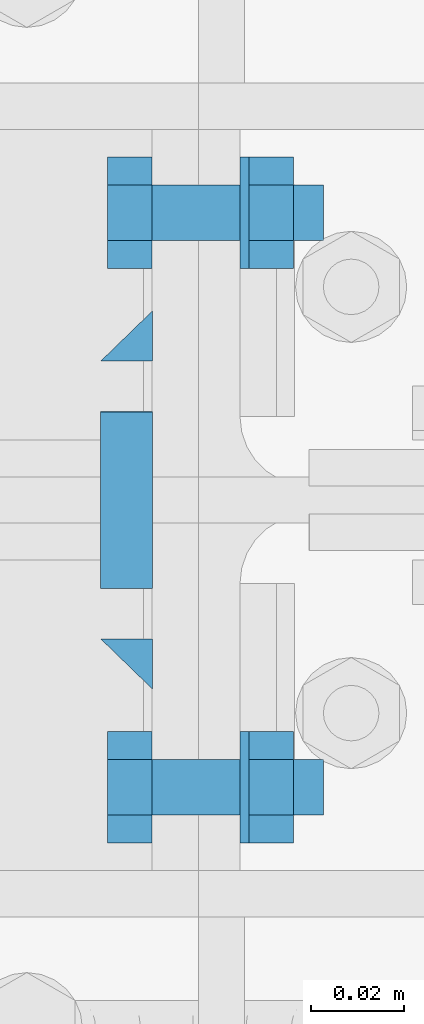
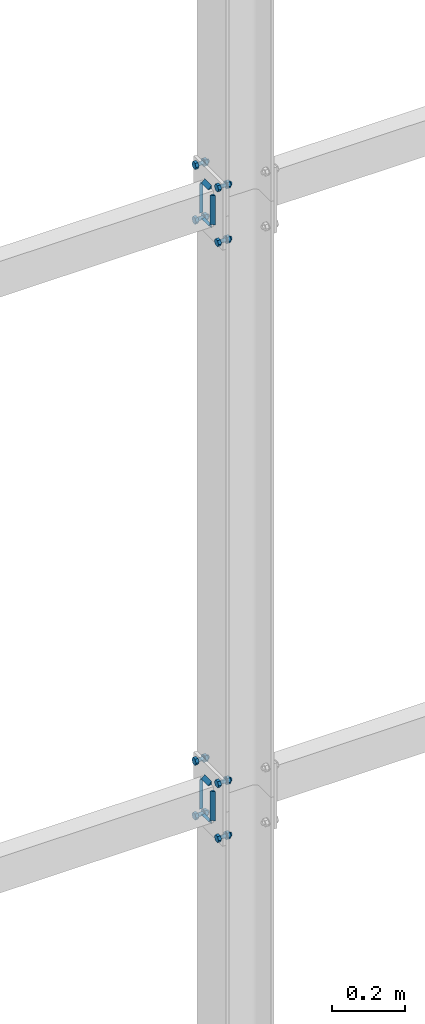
# One storey, part 197 of 251: 32 mechanical fasteners, 16 fasteners.
"""IFC4 building model written with IfcOpenShell, lengths in metres."""

import ifcopenshell
import ifcopenshell.guid

model = None  # the IFC model being written
_history = None  # IfcOwnerHistory: only IFC2X3 demands one
_inside = {}  # id of a spatial element -> (the spatial element, [elements in it])
_under = {}  # id of a project, library or spatial element -> (it, [spatial elements below it])
_declared = {}  # id of a project -> (the project, [libraries it declares])
_typed = {}  # id of a type object -> (the type object, [elements of that type])
_made_of = {}  # id of a material, layer set ... -> (it, [elements and type objects made of it])


def new_model(schema):
    """Start an empty IFC model of exactly this schema.

    Asked for "IFC4X3", IfcOpenShell would pick the latest addendum, in which some entities
    have other attributes; the version numbers below select the first issue.
    IFC2X3 requires an IfcOwnerHistory on every rooted entity: one is made here for all.
    """
    global model, _history
    if schema == "IFC4X3":
        model = ifcopenshell.file(schema_version=(4, 3, 0, 0))
    else:
        model = ifcopenshell.file(schema=schema)
    _inside.clear()
    _under.clear()
    _declared.clear()
    _typed.clear()
    _made_of.clear()
    _history = None
    if model.schema == "IFC2X3":
        org = make("IfcOrganization", Name="unknown")
        user = make(
            "IfcPersonAndOrganization",
            ThePerson=make("IfcPerson", FamilyName="unknown"),
            TheOrganization=org,
        )
        app = make(
            "IfcApplication",
            ApplicationDeveloper=org,
            Version="unknown",
            ApplicationFullName="unknown",
            ApplicationIdentifier="unknown",
        )
        _history = make(
            "IfcOwnerHistory",
            OwningUser=user,
            OwningApplication=app,
            ChangeAction="ADDED",
            CreationDate=0,
        )
    return model


def make(cls, **values):
    """One entity of the class cls with the attributes given. An attribute that is None is left unset."""
    return model.create_entity(
        cls, **{name: value for name, value in values.items() if value is not None}
    )


def rooted(cls, **values):
    """An entity with a GlobalId (a new one), such as an element, a storey or a relation."""
    return make(cls, GlobalId=ifcopenshell.guid.new(), OwnerHistory=_history, **values)


def si_unit(unit_type, name, prefix=None):
    """IfcSIUnit, for example si_unit("LENGTHUNIT", "METRE", prefix="MILLI")."""
    return make("IfcSIUnit", UnitType=unit_type, Prefix=prefix, Name=name)


def assignment(units):
    """IfcUnitAssignment: the units of a project."""
    return None if units is None else make("IfcUnitAssignment", Units=units)


def point(xyz):
    """IfcCartesianPoint."""
    return None if xyz is None else make("IfcCartesianPoint", Coordinates=xyz)


def direction(xyz):
    """IfcDirection."""
    return None if xyz is None else make("IfcDirection", DirectionRatios=xyz)


def frame(location, z_axis=None, x_axis=None):
    """IfcAxis2Placement3D, a coordinate frame: its origin and axes. An axis left out is left unset."""
    return make(
        "IfcAxis2Placement3D",
        Location=point(location),
        Axis=direction(z_axis),
        RefDirection=direction(x_axis),
    )


def origin_with_axes():
    """The frame at (0, 0, 0) with the z axis (0, 0, 1) and the x axis (1, 0, 0) written out."""
    return frame((0.0, 0.0, 0.0), z_axis=(0.0, 0.0, 1.0), x_axis=(1.0, 0.0, 0.0))


def place(relative_to, where):
    """IfcLocalPlacement: puts the frame where relative to a parent placement (None: the world)."""
    return make(
        "IfcLocalPlacement", PlacementRelTo=relative_to, RelativePlacement=where
    )


def context(
    kind, dimensions, precision=None, world=None, true_north=None, identifier=None
):
    """IfcGeometricRepresentationContext, for example the 3D "Model" context."""
    return make(
        "IfcGeometricRepresentationContext",
        ContextIdentifier=identifier,
        ContextType=kind,
        CoordinateSpaceDimension=dimensions,
        Precision=precision,
        WorldCoordinateSystem=world,
        TrueNorth=true_north,
    )


def project(units=None, contexts=None):
    """IfcProject with its units and contexts."""
    return rooted(
        "IfcProject",
        Name="project",
        RepresentationContexts=contexts,
        UnitsInContext=assignment(units),
    )


def spatial(cls, under=None, at=None, **own):
    """A site, building, storey or space (cls), placed at a placement, below another one or the project."""
    s = rooted(cls, ObjectPlacement=at, **own)
    if under is not None:
        _under.setdefault(under.id(), (under, []))[1].append(s)
    return s


def polyline(points):
    """IfcPolyline through the points."""
    return make("IfcPolyline", Points=[point(p) for p in points])


def outline(outer, holes=None, kind="AREA"):
    """IfcArbitraryClosedProfileDef: a profile drawn as a closed curve; with holes, ...WithVoids."""
    if holes is None:
        return make("IfcArbitraryClosedProfileDef", ProfileType=kind, OuterCurve=outer)
    return make(
        "IfcArbitraryProfileDefWithVoids",
        ProfileType=kind,
        OuterCurve=outer,
        InnerCurves=holes,
    )


def extrude(swept, where, along, depth):
    """IfcExtrudedAreaSolid: the profile swept, set in the frame where, extruded along a direction by depth."""
    return make(
        "IfcExtrudedAreaSolid",
        SweptArea=swept,
        Position=where,
        ExtrudedDirection=direction(along),
        Depth=depth,
    )


def shape(context_of_items, identifier, shape_type, items):
    """IfcShapeRepresentation: the items that make up one representation, for example the "Body"."""
    return make(
        "IfcShapeRepresentation",
        ContextOfItems=context_of_items,
        RepresentationIdentifier=identifier,
        RepresentationType=shape_type,
        Items=items,
    )


def made_of(thing, what):
    """Note that an element or type object is made of a material, layer set ...; save() writes the relation."""
    if what is not None:
        _made_of.setdefault(what.id(), (what, []))[1].append(thing)
    return thing


def type_object(cls, material=None, **own):
    """A type object (cls), such as IfcWallType, which elements share."""
    return made_of(rooted(cls, **own), material)


def element(
    cls,
    number,
    at=None,
    inside=None,
    cuts=None,
    type_object=None,
    material=None,
    context=None,
    identifier="Body",
    shape_type=None,
    held_by="IfcProductDefinitionShape",
    body=None,
    shapes=None,
    **own,
):
    """One element of the class cls, such as IfcWall. Its Tag is "e" and its number.

    at: its placement. inside: the storey or other place that contains it. cuts: it is an
    opening in that element (IfcRelVoidsElement). A single representation is given by context,
    identifier, shape_type and body (its items); several are given by shapes. held_by: the class
    of the entity that holds the representations. save() writes the other relations.
    """
    e = rooted(cls, Tag="e%d" % number, ObjectPlacement=at, **own)
    if body is not None:
        shapes = [shape(context, identifier, shape_type, body)]
    if shapes is not None:
        e.Representation = make(held_by, Representations=shapes)
    if inside is not None:
        _inside.setdefault(inside.id(), (inside, []))[1].append(e)
    if cuts is not None:
        rooted(
            "IfcRelVoidsElement", RelatingBuildingElement=cuts, RelatedOpeningElement=e
        )
    if type_object is not None:
        _typed.setdefault(type_object.id(), (type_object, []))[1].append(e)
    return made_of(e, material)


def aggregate(whole, parts):
    """IfcRelAggregates: a whole, such as a stair, and the parts it consists of."""
    return rooted("IfcRelAggregates", RelatingObject=whole, RelatedObjects=parts)


def save(model, path):
    """Write the relations noted so far, then the file.

    IfcRelAggregates (storeys below a building ...), IfcRelContainedInSpatialStructure (elements
    in a storey), IfcRelDefinesByType, IfcRelAssociatesMaterial and IfcRelDeclares: one each for
    every whole, place, type object, material and project.
    """
    for whole, parts in _under.values():
        aggregate(whole, parts)
    for where, things in _inside.values():
        rooted(
            "IfcRelContainedInSpatialStructure",
            RelatedElements=things,
            RelatingStructure=where,
        )
    for kind, things in _typed.values():
        rooted("IfcRelDefinesByType", RelatedObjects=things, RelatingType=kind)
    for what, things in _made_of.values():
        rooted("IfcRelAssociatesMaterial", RelatedObjects=things, RelatingMaterial=what)
    for by, libraries in _declared.values():
        rooted("IfcRelDeclares", RelatingContext=by, RelatedDefinitions=libraries)
    model.write(path)


model = new_model("IFC4")

# Units and contexts
model_context = context("Model", 3, precision=1e-05, world=origin_with_axes())
ifc_project = project(units=[si_unit("LENGTHUNIT", "METRE"), si_unit("AREAUNIT", "SQUARE_METRE"), si_unit("VOLUMEUNIT", "CUBIC_METRE"), si_unit("MASSUNIT", "GRAM", prefix="KILO"), si_unit("TIMEUNIT", "SECOND"), si_unit("PLANEANGLEUNIT", "RADIAN"), si_unit("SOLIDANGLEUNIT", "STERADIAN"), si_unit("THERMODYNAMICTEMPERATUREUNIT", "DEGREE_CELSIUS")], contexts=[model_context])

# Site, building, storey
placement_1 = place(None, origin_with_axes())
site = spatial("IfcSite", under=ifc_project, at=placement_1, Name="Italia", CompositionType="ELEMENT")
building = spatial("IfcBuilding", under=site, at=placement_1, Name="Deposito", CompositionType="ELEMENT")
storey = spatial("IfcBuildingStorey", under=building, at=placement_1, Name="Storey 0", CompositionType="ELEMENT", Elevation=0.0)

# Fasteners
fastener_type_1 = type_object("IfcFastenerType", Name="Collegamenti -006_-005 -006_-007 -007_-006 -007_-008 -014_-013 -014_-015 -015_-014 -015_-016", PredefinedType="WELD")
placement_2 = place(placement_1, origin_with_axes())
fastener_1_placement = place(placement_2, origin_with_axes())
element("IfcFastener", 1, at=fastener_1_placement, inside=storey, type_object=fastener_type_1, Name="Collegamenti -006_-005 -006_-007 -007_-006 -007_-008 -014_-013 -014_-015 -015_-014 -015_-016", context=model_context, shape_type="SweptSolid", body=[
    extrude(outline(polyline([(0.0, 0.0), (0.0111732, -0.0108382), (0.0, -0.0108382), (0.0, 0.0)])), frame((10.8291, 19.9809, 1.07079), z_axis=(0.0, 1.0, 0.0), x_axis=(-1.0, 0.0, 0.0)), (0.0, 0.0, 1.0), 0.0381012),
])
fastener_type_2 = type_object("IfcFastenerType", Name="Collegamenti -006_-005 -006_-007 -007_-006 -007_-008 -014_-013 -014_-015 -015_-014 -015_-016", PredefinedType="WELD")
fastener_2_placement = place(placement_2, origin_with_axes())
element("IfcFastener", 2, at=fastener_2_placement, inside=storey, type_object=fastener_type_2, Name="Collegamenti -006_-005 -006_-007 -007_-006 -007_-008 -014_-013 -014_-015 -015_-014 -015_-016", context=model_context, shape_type="SweptSolid", body=[
    extrude(outline(polyline([(0.0, 0.0), (-0.0108376, -0.0111732), (-0.0108376, 0.0), (0.0, 0.0)])), frame((10.8291, 20.0408, 1.04905), z_axis=(0.0, 0.0, -1.0), x_axis=(0.0, 1.0, 0.0)), (0.0, 0.0, 1.0), 0.0980999),
])
fastener_type_3 = type_object("IfcFastenerType", Name="Collegamenti -006_-005 -006_-007 -007_-006 -007_-008 -014_-013 -014_-015 -015_-014 -015_-016", PredefinedType="WELD")
fastener_3_placement = place(placement_2, origin_with_axes())
element("IfcFastener", 3, at=fastener_3_placement, inside=storey, type_object=fastener_type_3, Name="Collegamenti -006_-005 -006_-007 -007_-006 -007_-008 -014_-013 -014_-015 -015_-014 -015_-016", context=model_context, shape_type="SweptSolid", body=[
    extrude(outline(polyline([(0.0, 0.0), (0.0108376, 0.0111732), (0.0108376, 0.0), (0.0, 0.0)])), frame((10.8291, 19.9592, 0.95095), z_axis=(0.0, 0.0, 1.0), x_axis=(0.0, 1.0, 0.0)), (0.0, 0.0, 1.0), 0.0980999),
])
fastener_type_4 = type_object("IfcFastenerType", Name="Collegamenti -006_-005 -006_-007 -007_-006 -007_-008 -014_-013 -014_-015 -015_-014 -015_-016", PredefinedType="WELD")
fastener_4_placement = place(placement_2, origin_with_axes())
element("IfcFastener", 4, at=fastener_4_placement, inside=storey, type_object=fastener_type_4, Name="Collegamenti -006_-005 -006_-007 -007_-006 -007_-008 -014_-013 -014_-015 -015_-014 -015_-016", context=model_context, shape_type="SweptSolid", body=[
    extrude(outline(polyline([(0.0, 0.0), (-0.0111732, 0.0108382), (0.0, 0.0108382), (0.0, 0.0)])), frame((10.8291, 20.0191, 0.929212), z_axis=(0.0, -1.0, 0.0), x_axis=(1.0, 0.0, 0.0)), (0.0, 0.0, 1.0), 0.0381012),
])
fastener_type_5 = type_object("IfcFastenerType", Name="Collegamenti -006_-005 -006_-007 -007_-006 -007_-008 -014_-013 -014_-015 -015_-014 -015_-016", PredefinedType="WELD")
fastener_5_placement = place(placement_2, origin_with_axes())
element("IfcFastener", 5, at=fastener_5_placement, inside=storey, type_object=fastener_type_5, Name="Collegamenti -006_-005 -006_-007 -007_-006 -007_-008 -014_-013 -014_-015 -015_-014 -015_-016", context=model_context, shape_type="SweptSolid", body=[
    extrude(outline(polyline([(0.0, 0.0), (0.0111732, -0.0108382), (0.0, -0.0108382), (0.0, 0.0)])), frame((10.8291, 19.9809, 1.07079), z_axis=(0.0, 1.0, 0.0), x_axis=(-1.0, 0.0, 0.0)), (0.0, 0.0, 1.0), 0.0381012),
])
fastener_type_6 = type_object("IfcFastenerType", Name="Collegamenti -006_-005 -006_-007 -007_-006 -007_-008 -014_-013 -014_-015 -015_-014 -015_-016", PredefinedType="WELD")
fastener_6_placement = place(placement_2, origin_with_axes())
element("IfcFastener", 6, at=fastener_6_placement, inside=storey, type_object=fastener_type_6, Name="Collegamenti -006_-005 -006_-007 -007_-006 -007_-008 -014_-013 -014_-015 -015_-014 -015_-016", context=model_context, shape_type="SweptSolid", body=[
    extrude(outline(polyline([(0.0, 0.0), (-0.0108376, -0.0111732), (-0.0108376, 0.0), (0.0, 0.0)])), frame((10.8291, 20.0408, 1.04905), z_axis=(0.0, 0.0, -1.0), x_axis=(0.0, 1.0, 0.0)), (0.0, 0.0, 1.0), 0.0980999),
])
fastener_type_7 = type_object("IfcFastenerType", Name="Collegamenti -006_-005 -006_-007 -007_-006 -007_-008 -014_-013 -014_-015 -015_-014 -015_-016", PredefinedType="WELD")
fastener_7_placement = place(placement_2, origin_with_axes())
element("IfcFastener", 7, at=fastener_7_placement, inside=storey, type_object=fastener_type_7, Name="Collegamenti -006_-005 -006_-007 -007_-006 -007_-008 -014_-013 -014_-015 -015_-014 -015_-016", context=model_context, shape_type="SweptSolid", body=[
    extrude(outline(polyline([(0.0, 0.0), (0.0108376, 0.0111732), (0.0108376, 0.0), (0.0, 0.0)])), frame((10.8291, 19.9592, 0.95095), z_axis=(0.0, 0.0, 1.0), x_axis=(0.0, 1.0, 0.0)), (0.0, 0.0, 1.0), 0.0980999),
])
fastener_type_8 = type_object("IfcFastenerType", Name="Collegamenti -006_-005 -006_-007 -007_-006 -007_-008 -014_-013 -014_-015 -015_-014 -015_-016", PredefinedType="WELD")
fastener_8_placement = place(placement_2, origin_with_axes())
element("IfcFastener", 8, at=fastener_8_placement, inside=storey, type_object=fastener_type_8, Name="Collegamenti -006_-005 -006_-007 -007_-006 -007_-008 -014_-013 -014_-015 -015_-014 -015_-016", context=model_context, shape_type="SweptSolid", body=[
    extrude(outline(polyline([(0.0, 0.0), (-0.0111732, 0.0108382), (0.0, 0.0108382), (0.0, 0.0)])), frame((10.8291, 20.0191, 0.929212), z_axis=(0.0, -1.0, 0.0), x_axis=(1.0, 0.0, 0.0)), (0.0, 0.0, 1.0), 0.0381012),
])

# Mechanical fasteners
mechanical_fastener_type_1 = type_object("IfcMechanicalFastenerType", Name="Collegamenti -006_-005 -006_-007 -007_-006 -007_-008 -014_-013 -014_-015 -015_-014 -015_-016", PredefinedType="BOLT")
mechanical_fastener_1_placement = place(placement_2, origin_with_axes())
element("IfcMechanicalFastener", 9, at=mechanical_fastener_1_placement, inside=storey, type_object=mechanical_fastener_type_1, Name="Collegamenti -006_-005 -006_-007 -007_-006 -007_-008 -014_-013 -014_-015 -015_-014 -015_-016", NominalDiameter=0.0119993, context=model_context, shape_type="SweptSolid", body=[
    extrude(outline(polyline([(0.0, 0.0), (-0.012001, 0.0), (-0.0179996, 0.0103923), (-0.012001, 0.0207846), (0.0, 0.0207846), (0.00600052, 0.0103923), (0.0, 0.0)])), frame((10.829, 20.056, 0.897608), z_axis=(-1.0, 0.0, 0.0), x_axis=(0.0, -1.0, 0.0)), (0.0, 0.0, 1.0), 0.00959969),
])
mechanical_fastener_type_2 = type_object("IfcMechanicalFastenerType", Name="Collegamenti -006_-005 -006_-007 -007_-006 -007_-008 -014_-013 -014_-015 -015_-014 -015_-016", PredefinedType="BOLT")
mechanical_fastener_2_placement = place(placement_2, origin_with_axes())
element("IfcMechanicalFastener", 10, at=mechanical_fastener_2_placement, inside=storey, type_object=mechanical_fastener_type_2, Name="Collegamenti -006_-005 -006_-007 -007_-006 -007_-008 -014_-013 -014_-015 -015_-014 -015_-016", NominalDiameter=0.012, context=model_context, shape_type="SweptSolid", body=[
    extrude(outline(polyline([(0.0, 0.0), (-0.000204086, -0.00155294), (-0.000804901, -0.00300002), (-0.00175858, -0.00424266), (-0.00300026, -0.00519615), (-0.00444794, -0.00579554), (-0.00600052, -0.00599998), (-0.0075531, -0.00579554), (-0.00900078, -0.00519615), (-0.0102425, -0.00424266), (-0.0111961, -0.00300002), (-0.011797, -0.00155294), (-0.012001, 0.0), (-0.011797, 0.00155294), (-0.0111961, 0.00300002), (-0.0102425, 0.00424266), (-0.00900078, 0.00519615), (-0.0075531, 0.00579554), (-0.00600052, 0.00599998), (-0.00444794, 0.00579554), (-0.00300026, 0.00519615), (-0.00175858, 0.00424266), (-0.000804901, 0.00300002), (-0.000204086, 0.00155294), (0.0, 0.0)])), frame((10.866, 20.056, 0.908), z_axis=(-1.0, 0.0, 0.0), x_axis=(0.0, -1.0, 0.0)), (0.0, 0.0, 1.0), 0.0370007),
])
mechanical_fastener_type_3 = type_object("IfcMechanicalFastenerType", Name="Collegamenti -006_-005 -006_-007 -007_-006 -007_-008 -014_-013 -014_-015 -015_-014 -015_-016", PredefinedType="BOLT")
mechanical_fastener_3_placement = place(placement_2, origin_with_axes())
element("IfcMechanicalFastener", 11, at=mechanical_fastener_3_placement, inside=storey, type_object=mechanical_fastener_type_3, Name="Collegamenti -006_-005 -006_-007 -007_-006 -007_-008 -014_-013 -014_-015 -015_-014 -015_-016", NominalDiameter=0.0119993, context=model_context, shape_type="SweptSolid", body=[
    extrude(outline(polyline([(0.0, 0.0), (-0.012001, 0.0), (-0.0179996, 0.0103923), (-0.012001, 0.0207846), (0.0, 0.0207846), (0.00600052, 0.0103923), (0.0, 0.0)])), frame((10.8596, 20.056, 0.897608), z_axis=(-1.0, 0.0, 0.0), x_axis=(0.0, -1.0, 0.0)), (0.0, 0.0, 1.0), 0.00960064),
])
mechanical_fastener_type_4 = type_object("IfcMechanicalFastenerType", Name="Collegamenti -006_-005 -006_-007 -007_-006 -007_-008 -014_-013 -014_-015 -015_-014 -015_-016", PredefinedType="BOLT")
mechanical_fastener_4_placement = place(placement_2, origin_with_axes())
element("IfcMechanicalFastener", 12, at=mechanical_fastener_4_placement, inside=storey, type_object=mechanical_fastener_type_4, Name="Collegamenti -006_-005 -006_-007 -007_-006 -007_-008 -014_-013 -014_-015 -015_-014 -015_-016", NominalDiameter=0.024, context=model_context, shape_type="SweptSolid", body=[
    extrude(outline(polyline([(0.0, 0.0), (-0.000408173, -0.00310582), (-0.00160599, -0.00599998), (-0.00351334, -0.00848526), (-0.00599861, -0.0103923), (-0.00889397, -0.0115911), (-0.0119991, -0.012), (-0.0151043, -0.0115911), (-0.0179996, -0.0103923), (-0.0204849, -0.00848526), (-0.0223923, -0.00599998), (-0.0235901, -0.00310582), (-0.0239983, 0.0), (-0.0235901, 0.00310582), (-0.0223923, 0.00599998), (-0.0204849, 0.00848526), (-0.0179996, 0.0103923), (-0.0151043, 0.0115911), (-0.0119991, 0.012), (-0.00889397, 0.0115911), (-0.00599861, 0.0103923), (-0.00351334, 0.00848526), (-0.00160599, 0.00599998), (-0.000408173, 0.00310582), (0.0, 0.0)])), frame((10.85, 20.05, 0.908), z_axis=(-1.0, 0.0, 0.0), x_axis=(0.0, -1.0, 0.0)), (0.0, 0.0, 1.0), 0.00199986),
])
mechanical_fastener_type_5 = type_object("IfcMechanicalFastenerType", Name="Collegamenti -006_-005 -006_-007 -007_-006 -007_-008 -014_-013 -014_-015 -015_-014 -015_-016", PredefinedType="BOLT")
mechanical_fastener_5_placement = place(placement_2, origin_with_axes())
element("IfcMechanicalFastener", 13, at=mechanical_fastener_5_placement, inside=storey, type_object=mechanical_fastener_type_5, Name="Collegamenti -006_-005 -006_-007 -007_-006 -007_-008 -014_-013 -014_-015 -015_-014 -015_-016", NominalDiameter=0.0119993, context=model_context, shape_type="SweptSolid", body=[
    extrude(outline(polyline([(0.0, 0.0), (-0.012001, 0.0), (-0.0180016, 0.0103923), (-0.012001, 0.0207846), (0.0, 0.0207846), (0.00599861, 0.0103923), (0.0, 0.0)])), frame((10.829, 19.932, 0.897608), z_axis=(-1.0, 0.0, 0.0), x_axis=(0.0, -1.0, 0.0)), (0.0, 0.0, 1.0), 0.00959969),
])
mechanical_fastener_type_6 = type_object("IfcMechanicalFastenerType", Name="Collegamenti -006_-005 -006_-007 -007_-006 -007_-008 -014_-013 -014_-015 -015_-014 -015_-016", PredefinedType="BOLT")
mechanical_fastener_6_placement = place(placement_2, origin_with_axes())
element("IfcMechanicalFastener", 14, at=mechanical_fastener_6_placement, inside=storey, type_object=mechanical_fastener_type_6, Name="Collegamenti -006_-005 -006_-007 -007_-006 -007_-008 -014_-013 -014_-015 -015_-014 -015_-016", NominalDiameter=0.012, context=model_context, shape_type="SweptSolid", body=[
    extrude(outline(polyline([(0.0, 0.0), (-0.000204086, -0.00155294), (-0.000804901, -0.00300002), (-0.00175858, -0.00424266), (-0.00300026, -0.00519615), (-0.00444794, -0.00579554), (-0.00600052, -0.00599998), (-0.0075531, -0.00579554), (-0.00900078, -0.00519615), (-0.0102425, -0.00424266), (-0.0111961, -0.00300002), (-0.011797, -0.00155294), (-0.012001, 0.0), (-0.011797, 0.00155294), (-0.0111961, 0.00300002), (-0.0102425, 0.00424266), (-0.00900078, 0.00519615), (-0.0075531, 0.00579554), (-0.00600052, 0.00599998), (-0.00444794, 0.00579554), (-0.00300026, 0.00519615), (-0.00175858, 0.00424266), (-0.000804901, 0.00300002), (-0.000204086, 0.00155294), (0.0, 0.0)])), frame((10.866, 19.932, 0.908), z_axis=(-1.0, 0.0, 0.0), x_axis=(0.0, -1.0, 0.0)), (0.0, 0.0, 1.0), 0.0370007),
])
mechanical_fastener_type_7 = type_object("IfcMechanicalFastenerType", Name="Collegamenti -006_-005 -006_-007 -007_-006 -007_-008 -014_-013 -014_-015 -015_-014 -015_-016", PredefinedType="BOLT")
mechanical_fastener_7_placement = place(placement_2, origin_with_axes())
element("IfcMechanicalFastener", 15, at=mechanical_fastener_7_placement, inside=storey, type_object=mechanical_fastener_type_7, Name="Collegamenti -006_-005 -006_-007 -007_-006 -007_-008 -014_-013 -014_-015 -015_-014 -015_-016", NominalDiameter=0.0119993, context=model_context, shape_type="SweptSolid", body=[
    extrude(outline(polyline([(0.0, 0.0), (-0.012001, 0.0), (-0.0180016, 0.0103923), (-0.012001, 0.0207846), (0.0, 0.0207846), (0.00599861, 0.0103923), (0.0, 0.0)])), frame((10.8596, 19.932, 0.897608), z_axis=(-1.0, 0.0, 0.0), x_axis=(0.0, -1.0, 0.0)), (0.0, 0.0, 1.0), 0.00960064),
])
mechanical_fastener_type_8 = type_object("IfcMechanicalFastenerType", Name="Collegamenti -006_-005 -006_-007 -007_-006 -007_-008 -014_-013 -014_-015 -015_-014 -015_-016", PredefinedType="BOLT")
mechanical_fastener_8_placement = place(placement_2, origin_with_axes())
element("IfcMechanicalFastener", 16, at=mechanical_fastener_8_placement, inside=storey, type_object=mechanical_fastener_type_8, Name="Collegamenti -006_-005 -006_-007 -007_-006 -007_-008 -014_-013 -014_-015 -015_-014 -015_-016", NominalDiameter=0.024, context=model_context, shape_type="SweptSolid", body=[
    extrude(outline(polyline([(0.0, 0.0), (-0.000408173, -0.00310582), (-0.00160599, -0.00599998), (-0.00351334, -0.00848526), (-0.00599861, -0.0103923), (-0.00889397, -0.0115911), (-0.0119991, -0.012), (-0.0151043, -0.0115911), (-0.0179996, -0.0103923), (-0.0204849, -0.00848526), (-0.0223923, -0.00599998), (-0.0235901, -0.00310582), (-0.0239983, 0.0), (-0.0235901, 0.00310582), (-0.0223923, 0.00599998), (-0.0204849, 0.00848526), (-0.0179996, 0.0103923), (-0.0151043, 0.0115911), (-0.0119991, 0.012), (-0.00889397, 0.0115911), (-0.00599861, 0.0103923), (-0.00351334, 0.00848526), (-0.00160599, 0.00599998), (-0.000408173, 0.00310582), (0.0, 0.0)])), frame((10.85, 19.926, 0.908), z_axis=(-1.0, 0.0, 0.0), x_axis=(0.0, -1.0, 0.0)), (0.0, 0.0, 1.0), 0.00199986),
])
mechanical_fastener_type_9 = type_object("IfcMechanicalFastenerType", Name="Collegamenti -006_-005 -006_-007 -007_-006 -007_-008 -014_-013 -014_-015 -015_-014 -015_-016", PredefinedType="BOLT")
mechanical_fastener_9_placement = place(placement_2, origin_with_axes())
element("IfcMechanicalFastener", 17, at=mechanical_fastener_9_placement, inside=storey, type_object=mechanical_fastener_type_9, Name="Collegamenti -006_-005 -006_-007 -007_-006 -007_-008 -014_-013 -014_-015 -015_-014 -015_-016", NominalDiameter=0.0119993, context=model_context, shape_type="SweptSolid", body=[
    extrude(outline(polyline([(0.0, 0.0), (-0.012001, 0.0), (-0.0179996, 0.0103923), (-0.012001, 0.0207846), (0.0, 0.0207846), (0.00600052, 0.0103923), (0.0, 0.0)])), frame((10.829, 20.056, 1.08161), z_axis=(-1.0, 0.0, 0.0), x_axis=(0.0, -1.0, 0.0)), (0.0, 0.0, 1.0), 0.00959969),
])
mechanical_fastener_type_10 = type_object("IfcMechanicalFastenerType", Name="Collegamenti -006_-005 -006_-007 -007_-006 -007_-008 -014_-013 -014_-015 -015_-014 -015_-016", PredefinedType="BOLT")
mechanical_fastener_10_placement = place(placement_2, origin_with_axes())
element("IfcMechanicalFastener", 18, at=mechanical_fastener_10_placement, inside=storey, type_object=mechanical_fastener_type_10, Name="Collegamenti -006_-005 -006_-007 -007_-006 -007_-008 -014_-013 -014_-015 -015_-014 -015_-016", NominalDiameter=0.012, context=model_context, shape_type="SweptSolid", body=[
    extrude(outline(polyline([(0.0, 0.0), (-0.000204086, -0.00155294), (-0.000804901, -0.00300002), (-0.00175858, -0.00424266), (-0.00300026, -0.00519609), (-0.00444794, -0.0057956), (-0.00600052, -0.00600004), (-0.0075531, -0.0057956), (-0.00900078, -0.00519609), (-0.0102425, -0.00424266), (-0.0111961, -0.00300002), (-0.011797, -0.00155294), (-0.012001, 0.0), (-0.011797, 0.00155294), (-0.0111961, 0.00300002), (-0.0102425, 0.00424266), (-0.00900078, 0.00519609), (-0.0075531, 0.0057956), (-0.00600052, 0.00600004), (-0.00444794, 0.0057956), (-0.00300026, 0.00519609), (-0.00175858, 0.00424266), (-0.000804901, 0.00300002), (-0.000204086, 0.00155294), (0.0, 0.0)])), frame((10.866, 20.056, 1.092), z_axis=(-1.0, 0.0, 0.0), x_axis=(0.0, -1.0, 0.0)), (0.0, 0.0, 1.0), 0.0370007),
])
mechanical_fastener_type_11 = type_object("IfcMechanicalFastenerType", Name="Collegamenti -006_-005 -006_-007 -007_-006 -007_-008 -014_-013 -014_-015 -015_-014 -015_-016", PredefinedType="BOLT")
mechanical_fastener_11_placement = place(placement_2, origin_with_axes())
element("IfcMechanicalFastener", 19, at=mechanical_fastener_11_placement, inside=storey, type_object=mechanical_fastener_type_11, Name="Collegamenti -006_-005 -006_-007 -007_-006 -007_-008 -014_-013 -014_-015 -015_-014 -015_-016", NominalDiameter=0.0119993, context=model_context, shape_type="SweptSolid", body=[
    extrude(outline(polyline([(0.0, 0.0), (-0.012001, 0.0), (-0.0179996, 0.0103923), (-0.012001, 0.0207846), (0.0, 0.0207846), (0.00600052, 0.0103923), (0.0, 0.0)])), frame((10.8596, 20.056, 1.08161), z_axis=(-1.0, 0.0, 0.0), x_axis=(0.0, -1.0, 0.0)), (0.0, 0.0, 1.0), 0.00960064),
])
mechanical_fastener_type_12 = type_object("IfcMechanicalFastenerType", Name="Collegamenti -006_-005 -006_-007 -007_-006 -007_-008 -014_-013 -014_-015 -015_-014 -015_-016", PredefinedType="BOLT")
mechanical_fastener_12_placement = place(placement_2, origin_with_axes())
element("IfcMechanicalFastener", 20, at=mechanical_fastener_12_placement, inside=storey, type_object=mechanical_fastener_type_12, Name="Collegamenti -006_-005 -006_-007 -007_-006 -007_-008 -014_-013 -014_-015 -015_-014 -015_-016", NominalDiameter=0.024, context=model_context, shape_type="SweptSolid", body=[
    extrude(outline(polyline([(0.0, 0.0), (-0.000408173, -0.00310588), (-0.00160599, -0.00600004), (-0.00351334, -0.00848532), (-0.00599861, -0.0103923), (-0.00889397, -0.0115911), (-0.0119991, -0.012), (-0.0151043, -0.0115911), (-0.0179996, -0.0103923), (-0.0204849, -0.00848532), (-0.0223923, -0.00600004), (-0.0235901, -0.00310588), (-0.0239983, 0.0), (-0.0235901, 0.00310588), (-0.0223923, 0.00600004), (-0.0204849, 0.00848532), (-0.0179996, 0.0103923), (-0.0151043, 0.0115911), (-0.0119991, 0.012), (-0.00889397, 0.0115911), (-0.00599861, 0.0103923), (-0.00351334, 0.00848532), (-0.00160599, 0.00600004), (-0.000408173, 0.00310588), (0.0, 0.0)])), frame((10.85, 20.05, 1.092), z_axis=(-1.0, 0.0, 0.0), x_axis=(0.0, -1.0, 0.0)), (0.0, 0.0, 1.0), 0.00199986),
])
mechanical_fastener_type_13 = type_object("IfcMechanicalFastenerType", Name="Collegamenti -006_-005 -006_-007 -007_-006 -007_-008 -014_-013 -014_-015 -015_-014 -015_-016", PredefinedType="BOLT")
mechanical_fastener_13_placement = place(placement_2, origin_with_axes())
element("IfcMechanicalFastener", 21, at=mechanical_fastener_13_placement, inside=storey, type_object=mechanical_fastener_type_13, Name="Collegamenti -006_-005 -006_-007 -007_-006 -007_-008 -014_-013 -014_-015 -015_-014 -015_-016", NominalDiameter=0.0119993, context=model_context, shape_type="SweptSolid", body=[
    extrude(outline(polyline([(0.0, 0.0), (-0.012001, 0.0), (-0.0180016, 0.0103923), (-0.012001, 0.0207846), (0.0, 0.0207846), (0.00599861, 0.0103923), (0.0, 0.0)])), frame((10.829, 19.932, 1.08161), z_axis=(-1.0, 0.0, 0.0), x_axis=(0.0, -1.0, 0.0)), (0.0, 0.0, 1.0), 0.00959969),
])
mechanical_fastener_type_14 = type_object("IfcMechanicalFastenerType", Name="Collegamenti -006_-005 -006_-007 -007_-006 -007_-008 -014_-013 -014_-015 -015_-014 -015_-016", PredefinedType="BOLT")
mechanical_fastener_14_placement = place(placement_2, origin_with_axes())
element("IfcMechanicalFastener", 22, at=mechanical_fastener_14_placement, inside=storey, type_object=mechanical_fastener_type_14, Name="Collegamenti -006_-005 -006_-007 -007_-006 -007_-008 -014_-013 -014_-015 -015_-014 -015_-016", NominalDiameter=0.012, context=model_context, shape_type="SweptSolid", body=[
    extrude(outline(polyline([(0.0, 0.0), (-0.000204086, -0.00155294), (-0.000804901, -0.00300002), (-0.00175858, -0.00424266), (-0.00300026, -0.00519609), (-0.00444794, -0.0057956), (-0.00600052, -0.00600004), (-0.0075531, -0.0057956), (-0.00900078, -0.00519609), (-0.0102425, -0.00424266), (-0.0111961, -0.00300002), (-0.011797, -0.00155294), (-0.012001, 0.0), (-0.011797, 0.00155294), (-0.0111961, 0.00300002), (-0.0102425, 0.00424266), (-0.00900078, 0.00519609), (-0.0075531, 0.0057956), (-0.00600052, 0.00600004), (-0.00444794, 0.0057956), (-0.00300026, 0.00519609), (-0.00175858, 0.00424266), (-0.000804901, 0.00300002), (-0.000204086, 0.00155294), (0.0, 0.0)])), frame((10.866, 19.932, 1.092), z_axis=(-1.0, 0.0, 0.0), x_axis=(0.0, -1.0, 0.0)), (0.0, 0.0, 1.0), 0.0370007),
])
mechanical_fastener_type_15 = type_object("IfcMechanicalFastenerType", Name="Collegamenti -006_-005 -006_-007 -007_-006 -007_-008 -014_-013 -014_-015 -015_-014 -015_-016", PredefinedType="BOLT")
mechanical_fastener_15_placement = place(placement_2, origin_with_axes())
element("IfcMechanicalFastener", 23, at=mechanical_fastener_15_placement, inside=storey, type_object=mechanical_fastener_type_15, Name="Collegamenti -006_-005 -006_-007 -007_-006 -007_-008 -014_-013 -014_-015 -015_-014 -015_-016", NominalDiameter=0.0119993, context=model_context, shape_type="SweptSolid", body=[
    extrude(outline(polyline([(0.0, 0.0), (-0.012001, 0.0), (-0.0180016, 0.0103923), (-0.012001, 0.0207846), (0.0, 0.0207846), (0.00599861, 0.0103923), (0.0, 0.0)])), frame((10.8596, 19.932, 1.08161), z_axis=(-1.0, 0.0, 0.0), x_axis=(0.0, -1.0, 0.0)), (0.0, 0.0, 1.0), 0.00960064),
])
mechanical_fastener_type_16 = type_object("IfcMechanicalFastenerType", Name="Collegamenti -006_-005 -006_-007 -007_-006 -007_-008 -014_-013 -014_-015 -015_-014 -015_-016", PredefinedType="BOLT")
mechanical_fastener_16_placement = place(placement_2, origin_with_axes())
element("IfcMechanicalFastener", 24, at=mechanical_fastener_16_placement, inside=storey, type_object=mechanical_fastener_type_16, Name="Collegamenti -006_-005 -006_-007 -007_-006 -007_-008 -014_-013 -014_-015 -015_-014 -015_-016", NominalDiameter=0.024, context=model_context, shape_type="SweptSolid", body=[
    extrude(outline(polyline([(0.0, 0.0), (-0.000408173, -0.00310588), (-0.00160599, -0.00600004), (-0.00351334, -0.00848532), (-0.00599861, -0.0103923), (-0.00889397, -0.0115911), (-0.0119991, -0.012), (-0.0151043, -0.0115911), (-0.0179996, -0.0103923), (-0.0204849, -0.00848532), (-0.0223923, -0.00600004), (-0.0235901, -0.00310588), (-0.0239983, 0.0), (-0.0235901, 0.00310588), (-0.0223923, 0.00600004), (-0.0204849, 0.00848532), (-0.0179996, 0.0103923), (-0.0151043, 0.0115911), (-0.0119991, 0.012), (-0.00889397, 0.0115911), (-0.00599861, 0.0103923), (-0.00351334, 0.00848532), (-0.00160599, 0.00600004), (-0.000408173, 0.00310588), (0.0, 0.0)])), frame((10.85, 19.926, 1.092), z_axis=(-1.0, 0.0, 0.0), x_axis=(0.0, -1.0, 0.0)), (0.0, 0.0, 1.0), 0.00199986),
])

# Fasteners
fastener_type_9 = type_object("IfcFastenerType", Name="Collegamenti -006_-005 -006_-007 -007_-006 -007_-008 -014_-013 -014_-015 -015_-014 -015_-016", PredefinedType="WELD")
fastener_9_placement = place(placement_2, origin_with_axes())
element("IfcFastener", 25, at=fastener_9_placement, inside=storey, type_object=fastener_type_9, Name="Collegamenti -006_-005 -006_-007 -007_-006 -007_-008 -014_-013 -014_-015 -015_-014 -015_-016", context=model_context, shape_type="SweptSolid", body=[
    extrude(outline(polyline([(0.0, 0.0), (0.0111732, -0.0108383), (0.0, -0.0108383), (0.0, 0.0)])), frame((10.8291, 19.9809, 3.07079), z_axis=(0.0, 1.0, 0.0), x_axis=(-1.0, 0.0, 0.0)), (0.0, 0.0, 1.0), 0.0381012),
])
fastener_type_10 = type_object("IfcFastenerType", Name="Collegamenti -006_-005 -006_-007 -007_-006 -007_-008 -014_-013 -014_-015 -015_-014 -015_-016", PredefinedType="WELD")
fastener_10_placement = place(placement_2, origin_with_axes())
element("IfcFastener", 26, at=fastener_10_placement, inside=storey, type_object=fastener_type_10, Name="Collegamenti -006_-005 -006_-007 -007_-006 -007_-008 -014_-013 -014_-015 -015_-014 -015_-016", context=model_context, shape_type="SweptSolid", body=[
    extrude(outline(polyline([(0.0, 0.0), (-0.0108376, -0.0111732), (-0.0108376, 0.0), (0.0, 0.0)])), frame((10.8291, 20.0408, 3.04905), z_axis=(0.0, 0.0, -1.0), x_axis=(0.0, 1.0, 0.0)), (0.0, 0.0, 1.0), 0.0980997),
])
fastener_type_11 = type_object("IfcFastenerType", Name="Collegamenti -006_-005 -006_-007 -007_-006 -007_-008 -014_-013 -014_-015 -015_-014 -015_-016", PredefinedType="WELD")
fastener_11_placement = place(placement_2, origin_with_axes())
element("IfcFastener", 27, at=fastener_11_placement, inside=storey, type_object=fastener_type_11, Name="Collegamenti -006_-005 -006_-007 -007_-006 -007_-008 -014_-013 -014_-015 -015_-014 -015_-016", context=model_context, shape_type="SweptSolid", body=[
    extrude(outline(polyline([(0.0, 0.0), (0.0108376, 0.0111732), (0.0108376, 0.0), (0.0, 0.0)])), frame((10.8291, 19.9592, 2.95095), z_axis=(0.0, 0.0, 1.0), x_axis=(0.0, 1.0, 0.0)), (0.0, 0.0, 1.0), 0.0980997),
])
fastener_type_12 = type_object("IfcFastenerType", Name="Collegamenti -006_-005 -006_-007 -007_-006 -007_-008 -014_-013 -014_-015 -015_-014 -015_-016", PredefinedType="WELD")
fastener_12_placement = place(placement_2, origin_with_axes())
element("IfcFastener", 28, at=fastener_12_placement, inside=storey, type_object=fastener_type_12, Name="Collegamenti -006_-005 -006_-007 -007_-006 -007_-008 -014_-013 -014_-015 -015_-014 -015_-016", context=model_context, shape_type="SweptSolid", body=[
    extrude(outline(polyline([(0.0, 0.0), (-0.0111732, 0.0108383), (0.0, 0.0108383), (0.0, 0.0)])), frame((10.8291, 20.0191, 2.92921), z_axis=(0.0, -1.0, 0.0), x_axis=(1.0, 0.0, 0.0)), (0.0, 0.0, 1.0), 0.0381012),
])
fastener_type_13 = type_object("IfcFastenerType", Name="Collegamenti -006_-005 -006_-007 -007_-006 -007_-008 -014_-013 -014_-015 -015_-014 -015_-016", PredefinedType="WELD")
fastener_13_placement = place(placement_2, origin_with_axes())
element("IfcFastener", 29, at=fastener_13_placement, inside=storey, type_object=fastener_type_13, Name="Collegamenti -006_-005 -006_-007 -007_-006 -007_-008 -014_-013 -014_-015 -015_-014 -015_-016", context=model_context, shape_type="SweptSolid", body=[
    extrude(outline(polyline([(0.0, 0.0), (0.0111732, -0.0108383), (0.0, -0.0108383), (0.0, 0.0)])), frame((10.8291, 19.9809, 3.07079), z_axis=(0.0, 1.0, 0.0), x_axis=(-1.0, 0.0, 0.0)), (0.0, 0.0, 1.0), 0.0381012),
])
fastener_type_14 = type_object("IfcFastenerType", Name="Collegamenti -006_-005 -006_-007 -007_-006 -007_-008 -014_-013 -014_-015 -015_-014 -015_-016", PredefinedType="WELD")
fastener_14_placement = place(placement_2, origin_with_axes())
element("IfcFastener", 30, at=fastener_14_placement, inside=storey, type_object=fastener_type_14, Name="Collegamenti -006_-005 -006_-007 -007_-006 -007_-008 -014_-013 -014_-015 -015_-014 -015_-016", context=model_context, shape_type="SweptSolid", body=[
    extrude(outline(polyline([(0.0, 0.0), (-0.0108376, -0.0111732), (-0.0108376, 0.0), (0.0, 0.0)])), frame((10.8291, 20.0408, 3.04905), z_axis=(0.0, 0.0, -1.0), x_axis=(0.0, 1.0, 0.0)), (0.0, 0.0, 1.0), 0.0980997),
])
fastener_type_15 = type_object("IfcFastenerType", Name="Collegamenti -006_-005 -006_-007 -007_-006 -007_-008 -014_-013 -014_-015 -015_-014 -015_-016", PredefinedType="WELD")
fastener_15_placement = place(placement_2, origin_with_axes())
element("IfcFastener", 31, at=fastener_15_placement, inside=storey, type_object=fastener_type_15, Name="Collegamenti -006_-005 -006_-007 -007_-006 -007_-008 -014_-013 -014_-015 -015_-014 -015_-016", context=model_context, shape_type="SweptSolid", body=[
    extrude(outline(polyline([(0.0, 0.0), (0.0108376, 0.0111732), (0.0108376, 0.0), (0.0, 0.0)])), frame((10.8291, 19.9592, 2.95095), z_axis=(0.0, 0.0, 1.0), x_axis=(0.0, 1.0, 0.0)), (0.0, 0.0, 1.0), 0.0980997),
])
fastener_type_16 = type_object("IfcFastenerType", Name="Collegamenti -006_-005 -006_-007 -007_-006 -007_-008 -014_-013 -014_-015 -015_-014 -015_-016", PredefinedType="WELD")
fastener_16_placement = place(placement_2, origin_with_axes())
element("IfcFastener", 32, at=fastener_16_placement, inside=storey, type_object=fastener_type_16, Name="Collegamenti -006_-005 -006_-007 -007_-006 -007_-008 -014_-013 -014_-015 -015_-014 -015_-016", context=model_context, shape_type="SweptSolid", body=[
    extrude(outline(polyline([(0.0, 0.0), (-0.0111732, 0.0108383), (0.0, 0.0108383), (0.0, 0.0)])), frame((10.8291, 20.0191, 2.92921), z_axis=(0.0, -1.0, 0.0), x_axis=(1.0, 0.0, 0.0)), (0.0, 0.0, 1.0), 0.0381012),
])

# Mechanical fasteners
mechanical_fastener_type_17 = type_object("IfcMechanicalFastenerType", Name="Collegamenti -006_-005 -006_-007 -007_-006 -007_-008 -014_-013 -014_-015 -015_-014 -015_-016", PredefinedType="BOLT")
mechanical_fastener_17_placement = place(placement_2, origin_with_axes())
element("IfcMechanicalFastener", 33, at=mechanical_fastener_17_placement, inside=storey, type_object=mechanical_fastener_type_17, Name="Collegamenti -006_-005 -006_-007 -007_-006 -007_-008 -014_-013 -014_-015 -015_-014 -015_-016", NominalDiameter=0.0119992, context=model_context, shape_type="SweptSolid", body=[
    extrude(outline(polyline([(0.0, 0.0), (-0.012001, 0.0), (-0.0179996, 0.0103922), (-0.012001, 0.0207844), (0.0, 0.0207844), (0.00600052, 0.0103922), (0.0, 0.0)])), frame((10.829, 20.056, 2.89761), z_axis=(-1.0, 0.0, 0.0), x_axis=(0.0, -1.0, 0.0)), (0.0, 0.0, 1.0), 0.00959969),
])
mechanical_fastener_type_18 = type_object("IfcMechanicalFastenerType", Name="Collegamenti -006_-005 -006_-007 -007_-006 -007_-008 -014_-013 -014_-015 -015_-014 -015_-016", PredefinedType="BOLT")
mechanical_fastener_18_placement = place(placement_2, origin_with_axes())
element("IfcMechanicalFastener", 34, at=mechanical_fastener_18_placement, inside=storey, type_object=mechanical_fastener_type_18, Name="Collegamenti -006_-005 -006_-007 -007_-006 -007_-008 -014_-013 -014_-015 -015_-014 -015_-016", NominalDiameter=0.012, context=model_context, shape_type="SweptSolid", body=[
    extrude(outline(polyline([(0.0, 0.0), (-0.000204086, -0.00155282), (-0.000804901, -0.00300002), (-0.00175858, -0.00424266), (-0.00300026, -0.00519609), (-0.00444794, -0.00579548), (-0.00600052, -0.00600004), (-0.0075531, -0.00579548), (-0.00900078, -0.00519609), (-0.0102425, -0.00424266), (-0.0111961, -0.00300002), (-0.011797, -0.00155282), (-0.012001, 0.0), (-0.011797, 0.00155282), (-0.0111961, 0.00300002), (-0.0102425, 0.00424266), (-0.00900078, 0.00519609), (-0.0075531, 0.00579548), (-0.00600052, 0.00600004), (-0.00444794, 0.00579548), (-0.00300026, 0.00519609), (-0.00175858, 0.00424266), (-0.000804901, 0.00300002), (-0.000204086, 0.00155282), (0.0, 0.0)])), frame((10.866, 20.056, 2.908), z_axis=(-1.0, 0.0, 0.0), x_axis=(0.0, -1.0, 0.0)), (0.0, 0.0, 1.0), 0.0370007),
])
mechanical_fastener_type_19 = type_object("IfcMechanicalFastenerType", Name="Collegamenti -006_-005 -006_-007 -007_-006 -007_-008 -014_-013 -014_-015 -015_-014 -015_-016", PredefinedType="BOLT")
mechanical_fastener_19_placement = place(placement_2, origin_with_axes())
element("IfcMechanicalFastener", 35, at=mechanical_fastener_19_placement, inside=storey, type_object=mechanical_fastener_type_19, Name="Collegamenti -006_-005 -006_-007 -007_-006 -007_-008 -014_-013 -014_-015 -015_-014 -015_-016", NominalDiameter=0.0119992, context=model_context, shape_type="SweptSolid", body=[
    extrude(outline(polyline([(0.0, 0.0), (-0.012001, 0.0), (-0.0179996, 0.0103922), (-0.012001, 0.0207844), (0.0, 0.0207844), (0.00600052, 0.0103922), (0.0, 0.0)])), frame((10.8596, 20.056, 2.89761), z_axis=(-1.0, 0.0, 0.0), x_axis=(0.0, -1.0, 0.0)), (0.0, 0.0, 1.0), 0.00960064),
])
mechanical_fastener_type_20 = type_object("IfcMechanicalFastenerType", Name="Collegamenti -006_-005 -006_-007 -007_-006 -007_-008 -014_-013 -014_-015 -015_-014 -015_-016", PredefinedType="BOLT")
mechanical_fastener_20_placement = place(placement_2, origin_with_axes())
element("IfcMechanicalFastener", 36, at=mechanical_fastener_20_placement, inside=storey, type_object=mechanical_fastener_type_20, Name="Collegamenti -006_-005 -006_-007 -007_-006 -007_-008 -014_-013 -014_-015 -015_-014 -015_-016", NominalDiameter=0.024, context=model_context, shape_type="SweptSolid", body=[
    extrude(outline(polyline([(0.0, 0.0), (-0.000408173, -0.00310588), (-0.00160599, -0.00600004), (-0.00351334, -0.00848532), (-0.00599861, -0.0103922), (-0.00889397, -0.0115912), (-0.0119991, -0.0120001), (-0.0151043, -0.0115912), (-0.0179996, -0.0103922), (-0.0204849, -0.00848532), (-0.0223923, -0.00600004), (-0.0235901, -0.00310588), (-0.0239983, 0.0), (-0.0235901, 0.00310588), (-0.0223923, 0.00600004), (-0.0204849, 0.00848532), (-0.0179996, 0.0103922), (-0.0151043, 0.0115912), (-0.0119991, 0.0120001), (-0.00889397, 0.0115912), (-0.00599861, 0.0103922), (-0.00351334, 0.00848532), (-0.00160599, 0.00600004), (-0.000408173, 0.00310588), (0.0, 0.0)])), frame((10.85, 20.05, 2.908), z_axis=(-1.0, 0.0, 0.0), x_axis=(0.0, -1.0, 0.0)), (0.0, 0.0, 1.0), 0.00199986),
])
mechanical_fastener_type_21 = type_object("IfcMechanicalFastenerType", Name="Collegamenti -006_-005 -006_-007 -007_-006 -007_-008 -014_-013 -014_-015 -015_-014 -015_-016", PredefinedType="BOLT")
mechanical_fastener_21_placement = place(placement_2, origin_with_axes())
element("IfcMechanicalFastener", 37, at=mechanical_fastener_21_placement, inside=storey, type_object=mechanical_fastener_type_21, Name="Collegamenti -006_-005 -006_-007 -007_-006 -007_-008 -014_-013 -014_-015 -015_-014 -015_-016", NominalDiameter=0.0119992, context=model_context, shape_type="SweptSolid", body=[
    extrude(outline(polyline([(0.0, 0.0), (-0.012001, 0.0), (-0.0180016, 0.0103922), (-0.012001, 0.0207844), (0.0, 0.0207844), (0.00599861, 0.0103922), (0.0, 0.0)])), frame((10.829, 19.932, 2.89761), z_axis=(-1.0, 0.0, 0.0), x_axis=(0.0, -1.0, 0.0)), (0.0, 0.0, 1.0), 0.00959969),
])
mechanical_fastener_type_22 = type_object("IfcMechanicalFastenerType", Name="Collegamenti -006_-005 -006_-007 -007_-006 -007_-008 -014_-013 -014_-015 -015_-014 -015_-016", PredefinedType="BOLT")
mechanical_fastener_22_placement = place(placement_2, origin_with_axes())
element("IfcMechanicalFastener", 38, at=mechanical_fastener_22_placement, inside=storey, type_object=mechanical_fastener_type_22, Name="Collegamenti -006_-005 -006_-007 -007_-006 -007_-008 -014_-013 -014_-015 -015_-014 -015_-016", NominalDiameter=0.012, context=model_context, shape_type="SweptSolid", body=[
    extrude(outline(polyline([(0.0, 0.0), (-0.000204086, -0.00155282), (-0.000804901, -0.00300002), (-0.00175858, -0.00424266), (-0.00300026, -0.00519609), (-0.00444794, -0.00579548), (-0.00600052, -0.00600004), (-0.0075531, -0.00579548), (-0.00900078, -0.00519609), (-0.0102425, -0.00424266), (-0.0111961, -0.00300002), (-0.011797, -0.00155282), (-0.012001, 0.0), (-0.011797, 0.00155282), (-0.0111961, 0.00300002), (-0.0102425, 0.00424266), (-0.00900078, 0.00519609), (-0.0075531, 0.00579548), (-0.00600052, 0.00600004), (-0.00444794, 0.00579548), (-0.00300026, 0.00519609), (-0.00175858, 0.00424266), (-0.000804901, 0.00300002), (-0.000204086, 0.00155282), (0.0, 0.0)])), frame((10.866, 19.932, 2.908), z_axis=(-1.0, 0.0, 0.0), x_axis=(0.0, -1.0, 0.0)), (0.0, 0.0, 1.0), 0.0370007),
])
mechanical_fastener_type_23 = type_object("IfcMechanicalFastenerType", Name="Collegamenti -006_-005 -006_-007 -007_-006 -007_-008 -014_-013 -014_-015 -015_-014 -015_-016", PredefinedType="BOLT")
mechanical_fastener_23_placement = place(placement_2, origin_with_axes())
element("IfcMechanicalFastener", 39, at=mechanical_fastener_23_placement, inside=storey, type_object=mechanical_fastener_type_23, Name="Collegamenti -006_-005 -006_-007 -007_-006 -007_-008 -014_-013 -014_-015 -015_-014 -015_-016", NominalDiameter=0.0119992, context=model_context, shape_type="SweptSolid", body=[
    extrude(outline(polyline([(0.0, 0.0), (-0.012001, 0.0), (-0.0180016, 0.0103922), (-0.012001, 0.0207844), (0.0, 0.0207844), (0.00599861, 0.0103922), (0.0, 0.0)])), frame((10.8596, 19.932, 2.89761), z_axis=(-1.0, 0.0, 0.0), x_axis=(0.0, -1.0, 0.0)), (0.0, 0.0, 1.0), 0.00960064),
])
mechanical_fastener_type_24 = type_object("IfcMechanicalFastenerType", Name="Collegamenti -006_-005 -006_-007 -007_-006 -007_-008 -014_-013 -014_-015 -015_-014 -015_-016", PredefinedType="BOLT")
mechanical_fastener_24_placement = place(placement_2, origin_with_axes())
element("IfcMechanicalFastener", 40, at=mechanical_fastener_24_placement, inside=storey, type_object=mechanical_fastener_type_24, Name="Collegamenti -006_-005 -006_-007 -007_-006 -007_-008 -014_-013 -014_-015 -015_-014 -015_-016", NominalDiameter=0.024, context=model_context, shape_type="SweptSolid", body=[
    extrude(outline(polyline([(0.0, 0.0), (-0.000408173, -0.00310588), (-0.00160599, -0.00600004), (-0.00351334, -0.00848532), (-0.00599861, -0.0103922), (-0.00889397, -0.0115912), (-0.0119991, -0.0120001), (-0.0151043, -0.0115912), (-0.0179996, -0.0103922), (-0.0204849, -0.00848532), (-0.0223923, -0.00600004), (-0.0235901, -0.00310588), (-0.0239983, 0.0), (-0.0235901, 0.00310588), (-0.0223923, 0.00600004), (-0.0204849, 0.00848532), (-0.0179996, 0.0103922), (-0.0151043, 0.0115912), (-0.0119991, 0.0120001), (-0.00889397, 0.0115912), (-0.00599861, 0.0103922), (-0.00351334, 0.00848532), (-0.00160599, 0.00600004), (-0.000408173, 0.00310588), (0.0, 0.0)])), frame((10.85, 19.926, 2.908), z_axis=(-1.0, 0.0, 0.0), x_axis=(0.0, -1.0, 0.0)), (0.0, 0.0, 1.0), 0.00199986),
])
mechanical_fastener_type_25 = type_object("IfcMechanicalFastenerType", Name="Collegamenti -006_-005 -006_-007 -007_-006 -007_-008 -014_-013 -014_-015 -015_-014 -015_-016", PredefinedType="BOLT")
mechanical_fastener_25_placement = place(placement_2, origin_with_axes())
element("IfcMechanicalFastener", 41, at=mechanical_fastener_25_placement, inside=storey, type_object=mechanical_fastener_type_25, Name="Collegamenti -006_-005 -006_-007 -007_-006 -007_-008 -014_-013 -014_-015 -015_-014 -015_-016", NominalDiameter=0.0119992, context=model_context, shape_type="SweptSolid", body=[
    extrude(outline(polyline([(0.0, 0.0), (-0.012001, 0.0), (-0.0179996, 0.0103922), (-0.012001, 0.0207844), (0.0, 0.0207844), (0.00600052, 0.0103922), (0.0, 0.0)])), frame((10.829, 20.056, 3.08161), z_axis=(-1.0, 0.0, 0.0), x_axis=(0.0, -1.0, 0.0)), (0.0, 0.0, 1.0), 0.00959969),
])
mechanical_fastener_type_26 = type_object("IfcMechanicalFastenerType", Name="Collegamenti -006_-005 -006_-007 -007_-006 -007_-008 -014_-013 -014_-015 -015_-014 -015_-016", PredefinedType="BOLT")
mechanical_fastener_26_placement = place(placement_2, origin_with_axes())
element("IfcMechanicalFastener", 42, at=mechanical_fastener_26_placement, inside=storey, type_object=mechanical_fastener_type_26, Name="Collegamenti -006_-005 -006_-007 -007_-006 -007_-008 -014_-013 -014_-015 -015_-014 -015_-016", NominalDiameter=0.012, context=model_context, shape_type="SweptSolid", body=[
    extrude(outline(polyline([(0.0, 0.0), (-0.000204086, -0.00155282), (-0.000804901, -0.00300002), (-0.00175858, -0.00424266), (-0.00300026, -0.00519609), (-0.00444794, -0.00579548), (-0.00600052, -0.00600004), (-0.0075531, -0.00579548), (-0.00900078, -0.00519609), (-0.0102425, -0.00424266), (-0.0111961, -0.00300002), (-0.011797, -0.00155282), (-0.012001, 0.0), (-0.011797, 0.00155282), (-0.0111961, 0.00300002), (-0.0102425, 0.00424266), (-0.00900078, 0.00519609), (-0.0075531, 0.00579548), (-0.00600052, 0.00600004), (-0.00444794, 0.00579548), (-0.00300026, 0.00519609), (-0.00175858, 0.00424266), (-0.000804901, 0.00300002), (-0.000204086, 0.00155282), (0.0, 0.0)])), frame((10.866, 20.056, 3.092), z_axis=(-1.0, 0.0, 0.0), x_axis=(0.0, -1.0, 0.0)), (0.0, 0.0, 1.0), 0.0370007),
])
mechanical_fastener_type_27 = type_object("IfcMechanicalFastenerType", Name="Collegamenti -006_-005 -006_-007 -007_-006 -007_-008 -014_-013 -014_-015 -015_-014 -015_-016", PredefinedType="BOLT")
mechanical_fastener_27_placement = place(placement_2, origin_with_axes())
element("IfcMechanicalFastener", 43, at=mechanical_fastener_27_placement, inside=storey, type_object=mechanical_fastener_type_27, Name="Collegamenti -006_-005 -006_-007 -007_-006 -007_-008 -014_-013 -014_-015 -015_-014 -015_-016", NominalDiameter=0.0119992, context=model_context, shape_type="SweptSolid", body=[
    extrude(outline(polyline([(0.0, 0.0), (-0.012001, 0.0), (-0.0179996, 0.0103922), (-0.012001, 0.0207844), (0.0, 0.0207844), (0.00600052, 0.0103922), (0.0, 0.0)])), frame((10.8596, 20.056, 3.08161), z_axis=(-1.0, 0.0, 0.0), x_axis=(0.0, -1.0, 0.0)), (0.0, 0.0, 1.0), 0.00960064),
])
mechanical_fastener_type_28 = type_object("IfcMechanicalFastenerType", Name="Collegamenti -006_-005 -006_-007 -007_-006 -007_-008 -014_-013 -014_-015 -015_-014 -015_-016", PredefinedType="BOLT")
mechanical_fastener_28_placement = place(placement_2, origin_with_axes())
element("IfcMechanicalFastener", 44, at=mechanical_fastener_28_placement, inside=storey, type_object=mechanical_fastener_type_28, Name="Collegamenti -006_-005 -006_-007 -007_-006 -007_-008 -014_-013 -014_-015 -015_-014 -015_-016", NominalDiameter=0.024, context=model_context, shape_type="SweptSolid", body=[
    extrude(outline(polyline([(0.0, 0.0), (-0.000408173, -0.00310588), (-0.00160599, -0.00600004), (-0.00351334, -0.00848532), (-0.00599861, -0.0103922), (-0.00889397, -0.0115912), (-0.0119991, -0.0120001), (-0.0151043, -0.0115912), (-0.0179996, -0.0103922), (-0.0204849, -0.00848532), (-0.0223923, -0.00600004), (-0.0235901, -0.00310588), (-0.0239983, 0.0), (-0.0235901, 0.00310588), (-0.0223923, 0.00600004), (-0.0204849, 0.00848532), (-0.0179996, 0.0103922), (-0.0151043, 0.0115912), (-0.0119991, 0.0120001), (-0.00889397, 0.0115912), (-0.00599861, 0.0103922), (-0.00351334, 0.00848532), (-0.00160599, 0.00600004), (-0.000408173, 0.00310588), (0.0, 0.0)])), frame((10.85, 20.05, 3.092), z_axis=(-1.0, 0.0, 0.0), x_axis=(0.0, -1.0, 0.0)), (0.0, 0.0, 1.0), 0.00199986),
])
mechanical_fastener_type_29 = type_object("IfcMechanicalFastenerType", Name="Collegamenti -006_-005 -006_-007 -007_-006 -007_-008 -014_-013 -014_-015 -015_-014 -015_-016", PredefinedType="BOLT")
mechanical_fastener_29_placement = place(placement_2, origin_with_axes())
element("IfcMechanicalFastener", 45, at=mechanical_fastener_29_placement, inside=storey, type_object=mechanical_fastener_type_29, Name="Collegamenti -006_-005 -006_-007 -007_-006 -007_-008 -014_-013 -014_-015 -015_-014 -015_-016", NominalDiameter=0.0119992, context=model_context, shape_type="SweptSolid", body=[
    extrude(outline(polyline([(0.0, 0.0), (-0.012001, 0.0), (-0.0180016, 0.0103922), (-0.012001, 0.0207844), (0.0, 0.0207844), (0.00599861, 0.0103922), (0.0, 0.0)])), frame((10.829, 19.932, 3.08161), z_axis=(-1.0, 0.0, 0.0), x_axis=(0.0, -1.0, 0.0)), (0.0, 0.0, 1.0), 0.00959969),
])
mechanical_fastener_type_30 = type_object("IfcMechanicalFastenerType", Name="Collegamenti -006_-005 -006_-007 -007_-006 -007_-008 -014_-013 -014_-015 -015_-014 -015_-016", PredefinedType="BOLT")
mechanical_fastener_30_placement = place(placement_2, origin_with_axes())
element("IfcMechanicalFastener", 46, at=mechanical_fastener_30_placement, inside=storey, type_object=mechanical_fastener_type_30, Name="Collegamenti -006_-005 -006_-007 -007_-006 -007_-008 -014_-013 -014_-015 -015_-014 -015_-016", NominalDiameter=0.012, context=model_context, shape_type="SweptSolid", body=[
    extrude(outline(polyline([(0.0, 0.0), (-0.000204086, -0.00155282), (-0.000804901, -0.00300002), (-0.00175858, -0.00424266), (-0.00300026, -0.00519609), (-0.00444794, -0.00579548), (-0.00600052, -0.00600004), (-0.0075531, -0.00579548), (-0.00900078, -0.00519609), (-0.0102425, -0.00424266), (-0.0111961, -0.00300002), (-0.011797, -0.00155282), (-0.012001, 0.0), (-0.011797, 0.00155282), (-0.0111961, 0.00300002), (-0.0102425, 0.00424266), (-0.00900078, 0.00519609), (-0.0075531, 0.00579548), (-0.00600052, 0.00600004), (-0.00444794, 0.00579548), (-0.00300026, 0.00519609), (-0.00175858, 0.00424266), (-0.000804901, 0.00300002), (-0.000204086, 0.00155282), (0.0, 0.0)])), frame((10.866, 19.932, 3.092), z_axis=(-1.0, 0.0, 0.0), x_axis=(0.0, -1.0, 0.0)), (0.0, 0.0, 1.0), 0.0370007),
])
mechanical_fastener_type_31 = type_object("IfcMechanicalFastenerType", Name="Collegamenti -006_-005 -006_-007 -007_-006 -007_-008 -014_-013 -014_-015 -015_-014 -015_-016", PredefinedType="BOLT")
mechanical_fastener_31_placement = place(placement_2, origin_with_axes())
element("IfcMechanicalFastener", 47, at=mechanical_fastener_31_placement, inside=storey, type_object=mechanical_fastener_type_31, Name="Collegamenti -006_-005 -006_-007 -007_-006 -007_-008 -014_-013 -014_-015 -015_-014 -015_-016", NominalDiameter=0.0119992, context=model_context, shape_type="SweptSolid", body=[
    extrude(outline(polyline([(0.0, 0.0), (-0.012001, 0.0), (-0.0180016, 0.0103922), (-0.012001, 0.0207844), (0.0, 0.0207844), (0.00599861, 0.0103922), (0.0, 0.0)])), frame((10.8596, 19.932, 3.08161), z_axis=(-1.0, 0.0, 0.0), x_axis=(0.0, -1.0, 0.0)), (0.0, 0.0, 1.0), 0.00960064),
])
mechanical_fastener_type_32 = type_object("IfcMechanicalFastenerType", Name="Collegamenti -006_-005 -006_-007 -007_-006 -007_-008 -014_-013 -014_-015 -015_-014 -015_-016", PredefinedType="BOLT")
mechanical_fastener_32_placement = place(placement_2, origin_with_axes())
element("IfcMechanicalFastener", 48, at=mechanical_fastener_32_placement, inside=storey, type_object=mechanical_fastener_type_32, Name="Collegamenti -006_-005 -006_-007 -007_-006 -007_-008 -014_-013 -014_-015 -015_-014 -015_-016", NominalDiameter=0.024, context=model_context, shape_type="SweptSolid", body=[
    extrude(outline(polyline([(0.0, 0.0), (-0.000408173, -0.00310588), (-0.00160599, -0.00600004), (-0.00351334, -0.00848532), (-0.00599861, -0.0103922), (-0.00889397, -0.0115912), (-0.0119991, -0.0120001), (-0.0151043, -0.0115912), (-0.0179996, -0.0103922), (-0.0204849, -0.00848532), (-0.0223923, -0.00600004), (-0.0235901, -0.00310588), (-0.0239983, 0.0), (-0.0235901, 0.00310588), (-0.0223923, 0.00600004), (-0.0204849, 0.00848532), (-0.0179996, 0.0103922), (-0.0151043, 0.0115912), (-0.0119991, 0.0120001), (-0.00889397, 0.0115912), (-0.00599861, 0.0103922), (-0.00351334, 0.00848532), (-0.00160599, 0.00600004), (-0.000408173, 0.00310588), (0.0, 0.0)])), frame((10.85, 19.926, 3.092), z_axis=(-1.0, 0.0, 0.0), x_axis=(0.0, -1.0, 0.0)), (0.0, 0.0, 1.0), 0.00199986),
])

save(model, "model.ifc")
